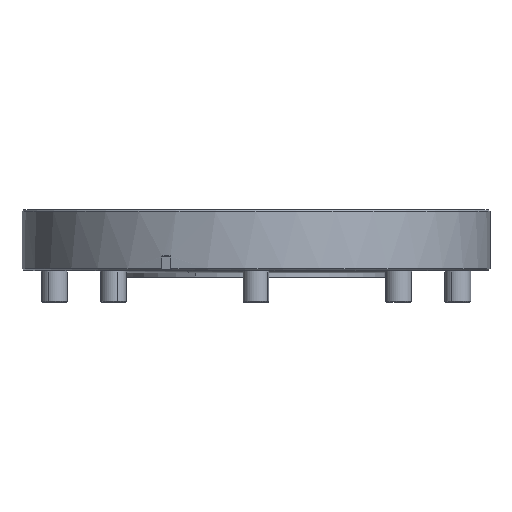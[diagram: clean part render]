
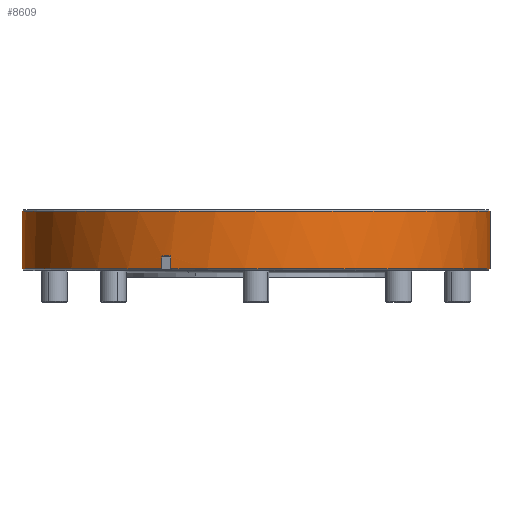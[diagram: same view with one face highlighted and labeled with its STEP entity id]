
A CAD part, front view. The second image highlights one B-rep face of the part: STEP entity #8609.
In plain terms, the highlighted cylindrical face has radius 72.5 mm (diameter 145 mm), a partial arc.
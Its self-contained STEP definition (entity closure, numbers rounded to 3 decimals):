
#142 = CIRCLE ( 'NONE', #5242, 72.5 ) ;
#238 = DIRECTION ( 'NONE',  ( 0., 0., 1. ) ) ;
#292 = VECTOR ( 'NONE', #8717, 1000. ) ;
#619 = VERTEX_POINT ( 'NONE', #1842 ) ;
#689 = CIRCLE ( 'NONE', #11009, 72.5 ) ;
#835 = CARTESIAN_POINT ( 'NONE',  ( -26.353, -67.541, -9.9 ) ) ;
#1084 = VERTEX_POINT ( 'NONE', #4055 ) ;
#1138 = DIRECTION ( 'NONE',  ( 0., 0., -1. ) ) ;
#1162 = CARTESIAN_POINT ( 'NONE',  ( -29.124, -66.393, -9.9 ) ) ;
#1202 = VERTEX_POINT ( 'NONE', #7951 ) ;
#1283 = EDGE_CURVE ( 'NONE', #619, #1084, #689, .T. ) ;
#1417 = CYLINDRICAL_SURFACE ( 'NONE', #2834, 72.5 ) ;
#1731 = CARTESIAN_POINT ( 'NONE',  ( -26.353, -67.541, -9.9 ) ) ;
#1801 = CARTESIAN_POINT ( 'NONE',  ( -29.095, -66.406, -9.743 ) ) ;
#1838 = DIRECTION ( 'NONE',  ( -1., 0., 0. ) ) ;
#1842 = CARTESIAN_POINT ( 'NONE',  ( -72.5, 0., -13.6 ) ) ;
#1880 = CARTESIAN_POINT ( 'NONE',  ( -28.993, -66.45, -9.633 ) ) ;
#1905 = ORIENTED_EDGE ( 'NONE', *, *, #9464, .T. ) ;
#2240 = LINE ( 'NONE', #9506, #7387 ) ;
#2253 = CARTESIAN_POINT ( 'NONE',  ( 0., 0., -14.1 ) ) ;
#2288 = EDGE_CURVE ( 'NONE', #8715, #3872, #142, .T. ) ;
#2491 = VECTOR ( 'NONE', #2946, 1000. ) ;
#2834 = AXIS2_PLACEMENT_3D ( 'NONE', #2253, #4096, #5680 ) ;
#2866 = VERTEX_POINT ( 'NONE', #1731 ) ;
#2868 = CARTESIAN_POINT ( 'NONE',  ( -28.849, -66.513, -9.6 ) ) ;
#2946 = DIRECTION ( 'NONE',  ( 0., 0., 1. ) ) ;
#2964 = VERTEX_POINT ( 'NONE', #3743 ) ;
#3002 = ORIENTED_EDGE ( 'NONE', *, *, #10969, .T. ) ;
#3037 = DIRECTION ( 'NONE',  ( 0., 0., -1. ) ) ;
#3396 = ORIENTED_EDGE ( 'NONE', *, *, #1283, .T. ) ;
#3439 = CARTESIAN_POINT ( 'NONE',  ( -26.632, -67.431, -9.6 ) ) ;
#3501 = ORIENTED_EDGE ( 'NONE', *, *, #6620, .T. ) ;
#3615 = CARTESIAN_POINT ( 'NONE',  ( -26.486, -67.489, -9.632 ) ) ;
#3675 = EDGE_LOOP ( 'NONE', ( #1905, #10891, #10449, #8239, #3396, #6002, #3002, #9634, #3501, #6732 ) ) ;
#3694 = CARTESIAN_POINT ( 'NONE',  ( -29.124, -66.393, -9.821 ) ) ;
#3743 = CARTESIAN_POINT ( 'NONE',  ( 72.5, 0., -13.6 ) ) ;
#3872 = VERTEX_POINT ( 'NONE', #6293 ) ;
#3893 = DIRECTION ( 'NONE',  ( 1., 0., 0. ) ) ;
#4030 = DIRECTION ( 'NONE',  ( 0., 0., -1. ) ) ;
#4055 = CARTESIAN_POINT ( 'NONE',  ( -29.124, -66.393, -13.6 ) ) ;
#4096 = DIRECTION ( 'NONE',  ( 0., 0., 1. ) ) ;
#4145 = B_SPLINE_CURVE_WITH_KNOTS ( 'NONE', 3,
 ( #7256, #3694, #1801, #1880, #6404, #2868 ),
 .UNSPECIFIED., .F., .F.,
 ( 4, 2, 4 ),
 ( 0., 0., 0. ),
 .UNSPECIFIED. ) ;
#5020 = CARTESIAN_POINT ( 'NONE',  ( -26.353, -67.541, -14.1 ) ) ;
#5135 = B_SPLINE_CURVE_WITH_KNOTS ( 'NONE', 3,
 ( #3439, #6170, #3615, #9015, #9845, #835 ),
 .UNSPECIFIED., .F., .F.,
 ( 4, 2, 4 ),
 ( 0., 0., 0. ),
 .UNSPECIFIED. ) ;
#5237 = DIRECTION ( 'NONE',  ( 1., 0., 0. ) ) ;
#5242 = AXIS2_PLACEMENT_3D ( 'NONE', #10296, #238, #1838 ) ;
#5306 = CIRCLE ( 'NONE', #10305, 72.5 ) ;
#5639 = EDGE_CURVE ( 'NONE', #619, #10089, #10525, .T. ) ;
#5680 = DIRECTION ( 'NONE',  ( -1., 0., 0. ) ) ;
#6002 = ORIENTED_EDGE ( 'NONE', *, *, #7370, .F. ) ;
#6005 = CARTESIAN_POINT ( 'NONE',  ( 72.5, 0., -14.1 ) ) ;
#6170 = CARTESIAN_POINT ( 'NONE',  ( -26.558, -67.46, -9.6 ) ) ;
#6235 = DIRECTION ( 'NONE',  ( 1., 0., 0. ) ) ;
#6293 = CARTESIAN_POINT ( 'NONE',  ( -26.632, -67.431, -9.6 ) ) ;
#6404 = CARTESIAN_POINT ( 'NONE',  ( -28.922, -66.481, -9.6 ) ) ;
#6620 = EDGE_CURVE ( 'NONE', #3872, #2866, #5135, .T. ) ;
#6732 = ORIENTED_EDGE ( 'NONE', *, *, #8098, .T. ) ;
#6907 = CARTESIAN_POINT ( 'NONE',  ( -28.849, -66.513, -9.6 ) ) ;
#7048 = CIRCLE ( 'NONE', #10752, 72.5 ) ;
#7256 = CARTESIAN_POINT ( 'NONE',  ( -29.124, -66.393, -9.9 ) ) ;
#7370 = EDGE_CURVE ( 'NONE', #9688, #1084, #2240, .T. ) ;
#7387 = VECTOR ( 'NONE', #3037, 1000. ) ;
#7863 = EDGE_CURVE ( 'NONE', #8971, #10089, #7048, .T. ) ;
#7951 = CARTESIAN_POINT ( 'NONE',  ( -26.353, -67.541, -13.6 ) ) ;
#8098 = EDGE_CURVE ( 'NONE', #2866, #1202, #10614, .T. ) ;
#8146 = VECTOR ( 'NONE', #4030, 1000. ) ;
#8170 = CARTESIAN_POINT ( 'NONE',  ( 0., 0., -13.6 ) ) ;
#8239 = ORIENTED_EDGE ( 'NONE', *, *, #5639, .F. ) ;
#8609 = ADVANCED_FACE ( 'NONE', ( #9870 ), #1417, .T. ) ;
#8715 = VERTEX_POINT ( 'NONE', #6907 ) ;
#8717 = DIRECTION ( 'NONE',  ( 0., 0., 1. ) ) ;
#8971 = VERTEX_POINT ( 'NONE', #10088 ) ;
#8978 = CARTESIAN_POINT ( 'NONE',  ( -72.5, 0., 4.2 ) ) ;
#9015 = CARTESIAN_POINT ( 'NONE',  ( -26.383, -67.529, -9.743 ) ) ;
#9140 = CARTESIAN_POINT ( 'NONE',  ( -72.5, 0., -14.1 ) ) ;
#9396 = CARTESIAN_POINT ( 'NONE',  ( 0., 0., 4.2 ) ) ;
#9464 = EDGE_CURVE ( 'NONE', #1202, #2964, #5306, .T. ) ;
#9506 = CARTESIAN_POINT ( 'NONE',  ( -29.124, -66.393, -14.1 ) ) ;
#9634 = ORIENTED_EDGE ( 'NONE', *, *, #2288, .T. ) ;
#9688 = VERTEX_POINT ( 'NONE', #1162 ) ;
#9845 = CARTESIAN_POINT ( 'NONE',  ( -26.353, -67.541, -9.821 ) ) ;
#9854 = DIRECTION ( 'NONE',  ( 0., 0., 1. ) ) ;
#9870 = FACE_OUTER_BOUND ( 'NONE', #3675, .T. ) ;
#9905 = DIRECTION ( 'NONE',  ( 0., 0., 1. ) ) ;
#10088 = CARTESIAN_POINT ( 'NONE',  ( 72.5, 0., 4.2 ) ) ;
#10089 = VERTEX_POINT ( 'NONE', #8978 ) ;
#10296 = CARTESIAN_POINT ( 'NONE',  ( 0., 0., -9.6 ) ) ;
#10305 = AXIS2_PLACEMENT_3D ( 'NONE', #8170, #9905, #6235 ) ;
#10319 = LINE ( 'NONE', #6005, #292 ) ;
#10449 = ORIENTED_EDGE ( 'NONE', *, *, #7863, .T. ) ;
#10525 = LINE ( 'NONE', #9140, #2491 ) ;
#10608 = EDGE_CURVE ( 'NONE', #2964, #8971, #10319, .T. ) ;
#10614 = LINE ( 'NONE', #5020, #8146 ) ;
#10752 = AXIS2_PLACEMENT_3D ( 'NONE', #9396, #1138, #3893 ) ;
#10760 = CARTESIAN_POINT ( 'NONE',  ( 0., 0., -13.6 ) ) ;
#10891 = ORIENTED_EDGE ( 'NONE', *, *, #10608, .T. ) ;
#10969 = EDGE_CURVE ( 'NONE', #9688, #8715, #4145, .T. ) ;
#11009 = AXIS2_PLACEMENT_3D ( 'NONE', #10760, #9854, #5237 ) ;
